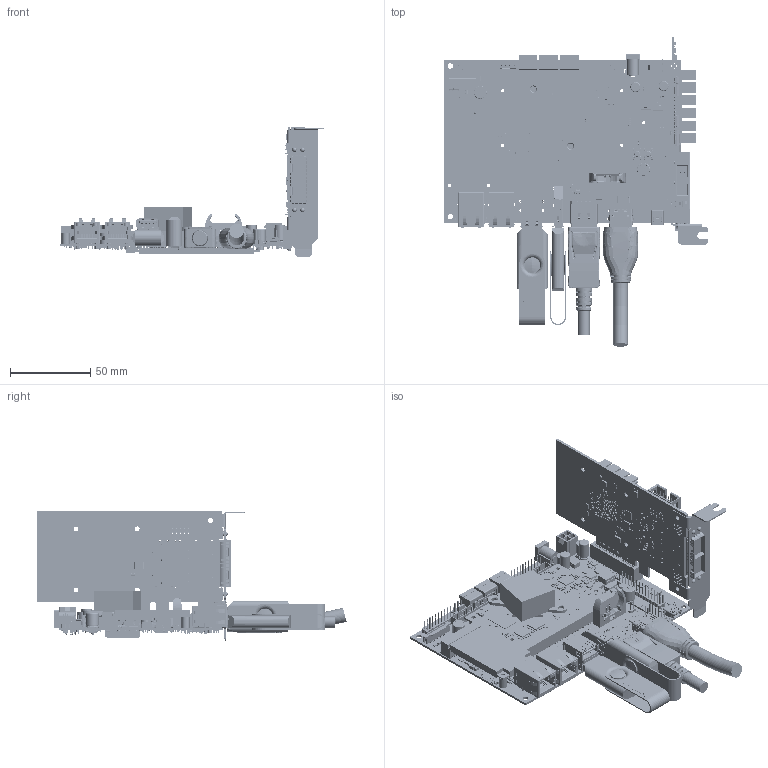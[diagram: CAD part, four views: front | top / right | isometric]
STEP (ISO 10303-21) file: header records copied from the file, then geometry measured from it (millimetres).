
FILE_DESCRIPTION(('Open CASCADE Model'),'2;1');
FILE_NAME('Open CASCADE Shape Model','2024-09-20T16:23:44',('Author'),( 'Open CASCADE'),'Open CASCADE STEP processor 7.5','Open CASCADE 7.5' ,'Unknown');
FILE_SCHEMA(('AUTOMOTIVE_DESIGN { 1 0 10303 214 1 1 1 1 }'));
Length unit declared in the file: millimetre
Products named in the file (1650): PCB; Board; Open CASCADE STEP translator 7.5 1.1.1; R110; User Library-d0402h025; R109; R108; R107; F1; User Library-fuse1812; X34; 470533000; Open CASCADE STEP translator 7.5 1.7.1.1; Open CASCADE STEP translator 7.5 1.7.1.2; VT18; SOT-23; User Library-SOT-23-1_3_1; User Library-SOT-23-1_1_1; User Library-SOT-23-1_4_1; User Library-SOT-23-1_5_1; User Library-SOT-23-1_2_1; R152; R151; R150; R149; R148; R147; R146; R145; R144; R158; R157; R156; R155; R154; R153; D33; User Library-SOIC-8-1; D32; MAX_QSOP16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
Assembly tree (2978 placements, depth 7):
  PCB
    Board
      Open CASCADE STEP translator 7.5 1.1.1
    R110
      User Library-d0402h025
    R109
      User Library-d0402h025
    R108
      User Library-d0402h025
    R107
      User Library-d0402h025
    F1
      User Library-fuse1812
    X34
      470533000
        Open CASCADE STEP translator 7.5 1.7.1.1
        Open CASCADE STEP translator 7.5 1.7.1.2
    VT18
      SOT-23
        User Library-SOT-23-1_3_1
        User Library-SOT-23-1_1_1
        User Library-SOT-23-1_4_1
        User Library-SOT-23-1_5_1
        User Library-SOT-23-1_2_1
    R152
      User Library-d0402h025
    R151
      User Library-d0402h025
    R150
      User Library-d0402h025
    R149
      User Library-d0402h025
    R148
      User Library-d0402h025
    R147
      User Library-d0402h025
    R146
      User Library-d0402h025
    R145
      User Library-d0402h025
    R144
      User Library-d0402h025
    R158
      User Library-d0402h025
    R157
      User Library-d0402h025
    R156
      User Library-d0402h025
    R155
      User Library-d0402h025
    R154
      User Library-d0402h025
    R153
      User Library-d0402h025
    D33
      User Library-SOIC-8-1
    D32
      MAX_QSOP16  x2
      MAX_QSOP16
    C132
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Bounding box: 164.12 x 192.14 x 80.63 mm (x, y, z)
Volume: 143436 mm3; surface area: 196645.5 mm2
Topology: 2359 solids, 3985 shells, 56203 faces, 145560 edges, 94029 vertices
Faces by surface type: plane 36507, cylinder 14032, bspline 2829, sphere 2459, torus 185, cone 138, revolution 49, extrusion 4
Full cylindrical faces by diameter (mm): 0.122 x1, 0.3 x3, 0.4 x17, 0.412 x1, 0.6 x19, 0.7 x73, 0.8 x61, 0.9 x50, 1 x119, 1.1 x12, 1.2 x8, 1.25 x1, 1.3 x4, 1.4 x14, 1.55 x4, 1.6 x7, 2.013 x10, 2.3 x4, 2.362 x2, 2.7 x4, 2.9 x4, 3 x8, 3.18 x2, 3.2 x8, 3.4 x4, 3.5 x12, 4.3 x10, 5.1 x10, 5.513 x2, 6.3 x4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
Entity records: 939368 total; most frequent: CARTESIAN_POINT 206430, ORIENTED_EDGE 136419, DIRECTION 134347, EDGE_CURVE 72576, VECTOR 58409, LINE 58405, VERTEX_POINT 50071, AXIS2_PLACEMENT_3D 37948
